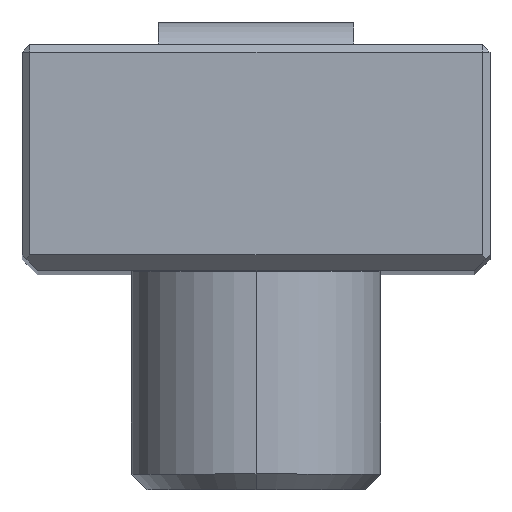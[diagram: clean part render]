
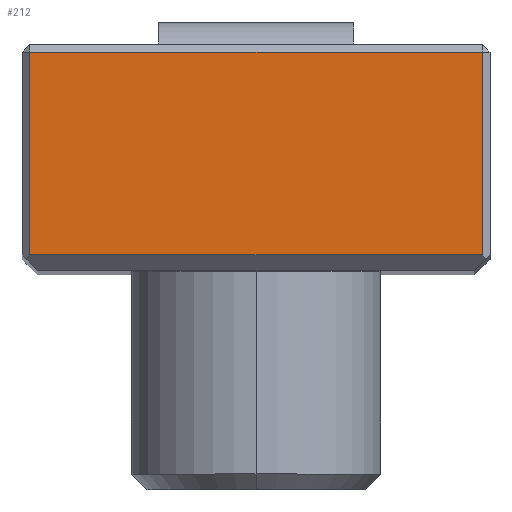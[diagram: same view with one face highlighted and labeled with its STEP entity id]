
A CAD part, top view. The second image highlights one B-rep face of the part: STEP entity #212.
In plain terms, the highlighted planar face has unit normal (0, 0, 1).
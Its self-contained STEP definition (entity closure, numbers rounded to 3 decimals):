
#212 = ADVANCED_FACE ( 'NONE', ( #946 ), #945, .F. ) ;
#213 = EDGE_LOOP ( 'NONE', ( #214, #225, #228, #231 ) ) ;
#214 = ORIENTED_EDGE ( 'NONE', *, *, #215, .T. ) ;
#215 = EDGE_CURVE ( 'NONE', #223, #224, #940, .T. ) ;
#223 = VERTEX_POINT ( 'NONE', #985 ) ;
#224 = VERTEX_POINT ( 'NONE', #984 ) ;
#225 = ORIENTED_EDGE ( 'NONE', *, *, #226, .T. ) ;
#226 = EDGE_CURVE ( 'NONE', #224, #227, #983, .T. ) ;
#227 = VERTEX_POINT ( 'NONE', #979 ) ;
#228 = ORIENTED_EDGE ( 'NONE', *, *, #229, .T. ) ;
#229 = EDGE_CURVE ( 'NONE', #227, #230, #978, .T. ) ;
#230 = VERTEX_POINT ( 'NONE', #974 ) ;
#231 = ORIENTED_EDGE ( 'NONE', *, *, #232, .T. ) ;
#232 = EDGE_CURVE ( 'NONE', #230, #223, #973, .T. ) ;
#937 = DIRECTION ( 'NONE',  ( 0., -1., 0. ) ) ;
#938 = VECTOR ( 'NONE', #937, 1000. ) ;
#939 = CARTESIAN_POINT ( 'NONE',  ( -14.5, 0., 80. ) ) ;
#940 = LINE ( 'NONE', #939, #938 ) ;
#941 = DIRECTION ( 'NONE',  ( -1., 0., 0. ) ) ;
#942 = DIRECTION ( 'NONE',  ( 0., 0., -1. ) ) ;
#943 = CARTESIAN_POINT ( 'NONE',  ( 15., 0., 80. ) ) ;
#944 = AXIS2_PLACEMENT_3D ( 'NONE', #943, #942, #941 ) ;
#945 = PLANE ( 'NONE',  #944 ) ;
#946 = FACE_OUTER_BOUND ( 'NONE', #213, .T. ) ;
#970 = DIRECTION ( 'NONE',  ( -1., 0., 0. ) ) ;
#971 = VECTOR ( 'NONE', #970, 1000. ) ;
#972 = CARTESIAN_POINT ( 'NONE',  ( -15., 14., 80. ) ) ;
#973 = LINE ( 'NONE', #972, #971 ) ;
#974 = CARTESIAN_POINT ( 'NONE',  ( 14.5, 14., 80. ) ) ;
#975 = DIRECTION ( 'NONE',  ( 0., 1., 0. ) ) ;
#976 = VECTOR ( 'NONE', #975, 1000. ) ;
#977 = CARTESIAN_POINT ( 'NONE',  ( 14.5, 14.5, 80. ) ) ;
#978 = LINE ( 'NONE', #977, #976 ) ;
#979 = CARTESIAN_POINT ( 'NONE',  ( 14.5, 1., 80. ) ) ;
#980 = DIRECTION ( 'NONE',  ( 1., 0., 0. ) ) ;
#981 = VECTOR ( 'NONE', #980, 1000. ) ;
#982 = CARTESIAN_POINT ( 'NONE',  ( 14.5, 1., 80. ) ) ;
#983 = LINE ( 'NONE', #982, #981 ) ;
#984 = CARTESIAN_POINT ( 'NONE',  ( -14.5, 1., 80. ) ) ;
#985 = CARTESIAN_POINT ( 'NONE',  ( -14.5, 14., 80. ) ) ;
